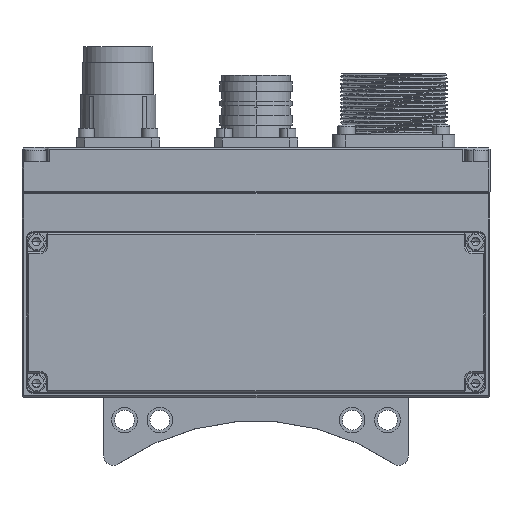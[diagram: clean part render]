
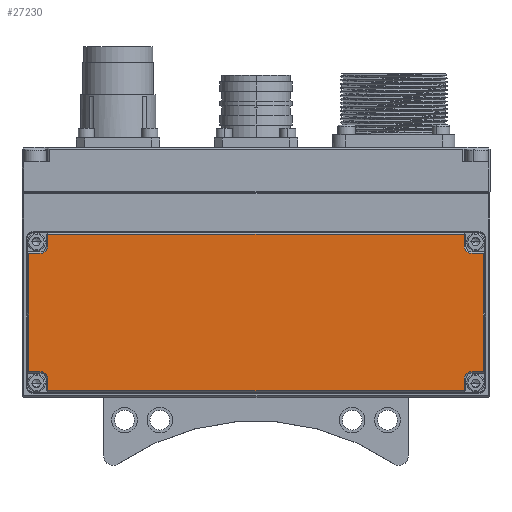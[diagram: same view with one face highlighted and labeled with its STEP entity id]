
A CAD part, top view. The second image highlights one B-rep face of the part: STEP entity #27230.
In plain terms, the highlighted planar face has unit normal (0, 0, 1).
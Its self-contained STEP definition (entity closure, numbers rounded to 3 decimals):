
#1936 = VERTEX_POINT ( 'NONE', #61017 ) ;
#2134 = EDGE_CURVE ( 'NONE', #46676, #69154, #20368, .T. ) ;
#2321 = CARTESIAN_POINT ( 'NONE',  ( -47.666, 37.918, 28. ) ) ;
#2476 = CARTESIAN_POINT ( 'NONE',  ( -112.566, 19.518, 28. ) ) ;
#2889 = DIRECTION ( 'NONE',  ( 0., 1., 0. ) ) ;
#3758 = VECTOR ( 'NONE', #52393, 1000. ) ;
#3944 = VECTOR ( 'NONE', #54339, 1000. ) ;
#3956 = CARTESIAN_POINT ( 'NONE',  ( 17.234, 40.418, 28. ) ) ;
#4071 = DIRECTION ( 'NONE',  ( 0., 0., -1. ) ) ;
#4739 = EDGE_CURVE ( 'NONE', #1936, #11620, #15591, .T. ) ;
#4888 = EDGE_CURVE ( 'NONE', #49807, #71447, #28943, .T. ) ;
#5371 = CARTESIAN_POINT ( 'NONE',  ( -47.666, 1.118, 28. ) ) ;
#5473 = LINE ( 'NONE', #57363, #72370 ) ;
#5752 = CARTESIAN_POINT ( 'NONE',  ( -112.566, -4.882, 28. ) ) ;
#6068 = AXIS2_PLACEMENT_3D ( 'NONE', #83824, #91320, #61781 ) ;
#6081 = EDGE_CURVE ( 'NONE', #69154, #46147, #46755, .T. ) ;
#6638 = DIRECTION ( 'NONE',  ( -1., 0., 0. ) ) ;
#7487 = CARTESIAN_POINT ( 'NONE',  ( 23.234, 1.118, 28. ) ) ;
#9984 = LINE ( 'NONE', #5371, #36899 ) ;
#11620 = VERTEX_POINT ( 'NONE', #3956 ) ;
#12259 = ORIENTED_EDGE ( 'NONE', *, *, #34117, .T. ) ;
#12523 = VERTEX_POINT ( 'NONE', #43950 ) ;
#13339 = ORIENTED_EDGE ( 'NONE', *, *, #34387, .T. ) ;
#14306 = CARTESIAN_POINT ( 'NONE',  ( -115.066, 37.918, 28. ) ) ;
#14799 = CARTESIAN_POINT ( 'NONE',  ( 17.234, 43.918, 28. ) ) ;
#15591 = CIRCLE ( 'NONE', #77742, 2.5 ) ;
#15708 = EDGE_CURVE ( 'NONE', #15729, #45648, #41918, .T. ) ;
#15714 = DIRECTION ( 'NONE',  ( -1., 0., 0. ) ) ;
#15729 = VERTEX_POINT ( 'NONE', #40628 ) ;
#16120 = FACE_OUTER_BOUND ( 'NONE', #25730, .T. ) ;
#19539 = ORIENTED_EDGE ( 'NONE', *, *, #40167, .T. ) ;
#19817 = DIRECTION ( 'NONE',  ( 0., -1., 0. ) ) ;
#20337 = EDGE_CURVE ( 'NONE', #12523, #1936, #37312, .T. ) ;
#20368 = LINE ( 'NONE', #78640, #24860 ) ;
#20434 = CARTESIAN_POINT ( 'NONE',  ( -118.566, 0.618, 28. ) ) ;
#20680 = CARTESIAN_POINT ( 'NONE',  ( -112.566, -1.382, 28. ) ) ;
#20880 = ORIENTED_EDGE ( 'NONE', *, *, #4739, .T. ) ;
#21052 = VERTEX_POINT ( 'NONE', #74430 ) ;
#21322 = DIRECTION ( 'NONE',  ( 0., 0., -1. ) ) ;
#21334 = ORIENTED_EDGE ( 'NONE', *, *, #71615, .T. ) ;
#21425 = EDGE_CURVE ( 'NONE', #46147, #89680, #66176, .T. ) ;
#22767 = LINE ( 'NONE', #2476, #3758 ) ;
#24860 = VECTOR ( 'NONE', #78352, 1000. ) ;
#25730 = EDGE_LOOP ( 'NONE', ( #21334, #60078, #12259, #19539, #64113, #64600, #88393, #56368, #56416, #72454, #13339, #78616, #20880, #50175, #46610, #66494 ) ) ;
#25927 = CARTESIAN_POINT ( 'NONE',  ( -112.566, 40.418, 28. ) ) ;
#26259 = CARTESIAN_POINT ( 'NONE',  ( -112.566, 19.518, 28. ) ) ;
#26389 = LINE ( 'NONE', #73948, #61028 ) ;
#27201 = DIRECTION ( 'NONE',  ( 1., 0., 0. ) ) ;
#27230 = ADVANCED_FACE ( 'NONE', ( #16120 ), #50326, .F. ) ;
#28943 = CIRCLE ( 'NONE', #6068, 2.5 ) ;
#29859 = DIRECTION ( 'NONE',  ( 0., 0., -1. ) ) ;
#30152 = VERTEX_POINT ( 'NONE', #7487 ) ;
#31852 = DIRECTION ( 'NONE',  ( 0., 0., -1. ) ) ;
#34117 = EDGE_CURVE ( 'NONE', #21052, #58078, #76596, .T. ) ;
#34387 = EDGE_CURVE ( 'NONE', #30152, #12523, #26389, .T. ) ;
#36899 = VECTOR ( 'NONE', #27201, 1000. ) ;
#37312 = LINE ( 'NONE', #51565, #79598 ) ;
#39671 = DIRECTION ( 'NONE',  ( -1., 0., 0. ) ) ;
#39765 = VECTOR ( 'NONE', #66589, 1000. ) ;
#40167 = EDGE_CURVE ( 'NONE', #58078, #49807, #5473, .T. ) ;
#40198 = AXIS2_PLACEMENT_3D ( 'NONE', #72506, #29859, #83065 ) ;
#40628 = CARTESIAN_POINT ( 'NONE',  ( -112.566, 43.918, 28. ) ) ;
#41639 = LINE ( 'NONE', #47688, #88488 ) ;
#41918 = LINE ( 'NONE', #26259, #3944 ) ;
#42229 = CARTESIAN_POINT ( 'NONE',  ( -47.666, 19.518, 28. ) ) ;
#42734 = DIRECTION ( 'NONE',  ( 1., 0., 0. ) ) ;
#43950 = CARTESIAN_POINT ( 'NONE',  ( 23.234, 37.918, 28. ) ) ;
#45352 = EDGE_CURVE ( 'NONE', #64488, #15729, #51423, .T. ) ;
#45648 = VERTEX_POINT ( 'NONE', #25927 ) ;
#45871 = CARTESIAN_POINT ( 'NONE',  ( 17.234, -4.882, 28. ) ) ;
#46147 = VERTEX_POINT ( 'NONE', #63594 ) ;
#46610 = ORIENTED_EDGE ( 'NONE', *, *, #45352, .T. ) ;
#46676 = VERTEX_POINT ( 'NONE', #5752 ) ;
#46755 = LINE ( 'NONE', #48910, #91370 ) ;
#46943 = VECTOR ( 'NONE', #59041, 1000. ) ;
#47119 = CARTESIAN_POINT ( 'NONE',  ( 19.734, 40.418, 28. ) ) ;
#47688 = CARTESIAN_POINT ( 'NONE',  ( 17.234, 19.518, 28. ) ) ;
#48317 = CARTESIAN_POINT ( 'NONE',  ( -118.566, 1.118, 28. ) ) ;
#48582 = DIRECTION ( 'NONE',  ( 0., 1., 0. ) ) ;
#48910 = CARTESIAN_POINT ( 'NONE',  ( 17.234, 19.518, 28. ) ) ;
#49807 = VERTEX_POINT ( 'NONE', #52482 ) ;
#50175 = ORIENTED_EDGE ( 'NONE', *, *, #78819, .T. ) ;
#50326 = PLANE ( 'NONE',  #71112 ) ;
#51423 = LINE ( 'NONE', #51853, #46943 ) ;
#51565 = CARTESIAN_POINT ( 'NONE',  ( -47.666, 37.918, 28. ) ) ;
#51853 = CARTESIAN_POINT ( 'NONE',  ( -113.066, 43.918, 28. ) ) ;
#52393 = DIRECTION ( 'NONE',  ( 0., -1., 0. ) ) ;
#52482 = CARTESIAN_POINT ( 'NONE',  ( -115.066, 1.118, 28. ) ) ;
#53031 = CARTESIAN_POINT ( 'NONE',  ( -115.066, 40.418, 28. ) ) ;
#54339 = DIRECTION ( 'NONE',  ( 0., -1., 0. ) ) ;
#56368 = ORIENTED_EDGE ( 'NONE', *, *, #6081, .T. ) ;
#56416 = ORIENTED_EDGE ( 'NONE', *, *, #21425, .T. ) ;
#57363 = CARTESIAN_POINT ( 'NONE',  ( -47.666, 1.118, 28. ) ) ;
#58078 = VERTEX_POINT ( 'NONE', #48317 ) ;
#58797 = VECTOR ( 'NONE', #19817, 1000. ) ;
#59003 = CARTESIAN_POINT ( 'NONE',  ( 19.734, 1.118, 28. ) ) ;
#59041 = DIRECTION ( 'NONE',  ( -1., 0., 0. ) ) ;
#60078 = ORIENTED_EDGE ( 'NONE', *, *, #71085, .T. ) ;
#61017 = CARTESIAN_POINT ( 'NONE',  ( 19.734, 37.918, 28. ) ) ;
#61028 = VECTOR ( 'NONE', #2889, 1000. ) ;
#61781 = DIRECTION ( 'NONE',  ( -1., 0., 0. ) ) ;
#63594 = CARTESIAN_POINT ( 'NONE',  ( 17.234, -1.382, 28. ) ) ;
#64113 = ORIENTED_EDGE ( 'NONE', *, *, #4888, .T. ) ;
#64488 = VERTEX_POINT ( 'NONE', #14799 ) ;
#64600 = ORIENTED_EDGE ( 'NONE', *, *, #78553, .T. ) ;
#66176 = CIRCLE ( 'NONE', #40198, 2.5 ) ;
#66494 = ORIENTED_EDGE ( 'NONE', *, *, #15708, .T. ) ;
#66589 = DIRECTION ( 'NONE',  ( -1., 0., 0. ) ) ;
#69154 = VERTEX_POINT ( 'NONE', #45871 ) ;
#71085 = EDGE_CURVE ( 'NONE', #71985, #21052, #77588, .T. ) ;
#71112 = AXIS2_PLACEMENT_3D ( 'NONE', #42229, #21322, #6638 ) ;
#71447 = VERTEX_POINT ( 'NONE', #20680 ) ;
#71615 = EDGE_CURVE ( 'NONE', #45648, #71985, #86399, .T. ) ;
#71985 = VERTEX_POINT ( 'NONE', #14306 ) ;
#72370 = VECTOR ( 'NONE', #42734, 1000. ) ;
#72454 = ORIENTED_EDGE ( 'NONE', *, *, #91053, .T. ) ;
#72506 = CARTESIAN_POINT ( 'NONE',  ( 19.734, -1.382, 28. ) ) ;
#73882 = DIRECTION ( 'NONE',  ( -1., 0., 0. ) ) ;
#73948 = CARTESIAN_POINT ( 'NONE',  ( 23.234, 38.418, 28. ) ) ;
#74430 = CARTESIAN_POINT ( 'NONE',  ( -118.566, 37.918, 28. ) ) ;
#76596 = LINE ( 'NONE', #20434, #58797 ) ;
#77588 = LINE ( 'NONE', #2321, #39765 ) ;
#77742 = AXIS2_PLACEMENT_3D ( 'NONE', #47119, #4071, #39671 ) ;
#78352 = DIRECTION ( 'NONE',  ( 1., 0., 0. ) ) ;
#78553 = EDGE_CURVE ( 'NONE', #71447, #46676, #22767, .T. ) ;
#78616 = ORIENTED_EDGE ( 'NONE', *, *, #20337, .T. ) ;
#78640 = CARTESIAN_POINT ( 'NONE',  ( 17.734, -4.882, 28. ) ) ;
#78819 = EDGE_CURVE ( 'NONE', #11620, #64488, #41639, .T. ) ;
#79598 = VECTOR ( 'NONE', #15714, 1000. ) ;
#83065 = DIRECTION ( 'NONE',  ( -1., 0., 0. ) ) ;
#83824 = CARTESIAN_POINT ( 'NONE',  ( -115.066, -1.382, 28. ) ) ;
#86399 = CIRCLE ( 'NONE', #86778, 2.5 ) ;
#86778 = AXIS2_PLACEMENT_3D ( 'NONE', #53031, #31852, #73882 ) ;
#88393 = ORIENTED_EDGE ( 'NONE', *, *, #2134, .T. ) ;
#88488 = VECTOR ( 'NONE', #48582, 1000. ) ;
#89680 = VERTEX_POINT ( 'NONE', #59003 ) ;
#91053 = EDGE_CURVE ( 'NONE', #89680, #30152, #9984, .T. ) ;
#91320 = DIRECTION ( 'NONE',  ( 0., 0., -1. ) ) ;
#91370 = VECTOR ( 'NONE', #92520, 1000. ) ;
#92520 = DIRECTION ( 'NONE',  ( 0., 1., 0. ) ) ;
